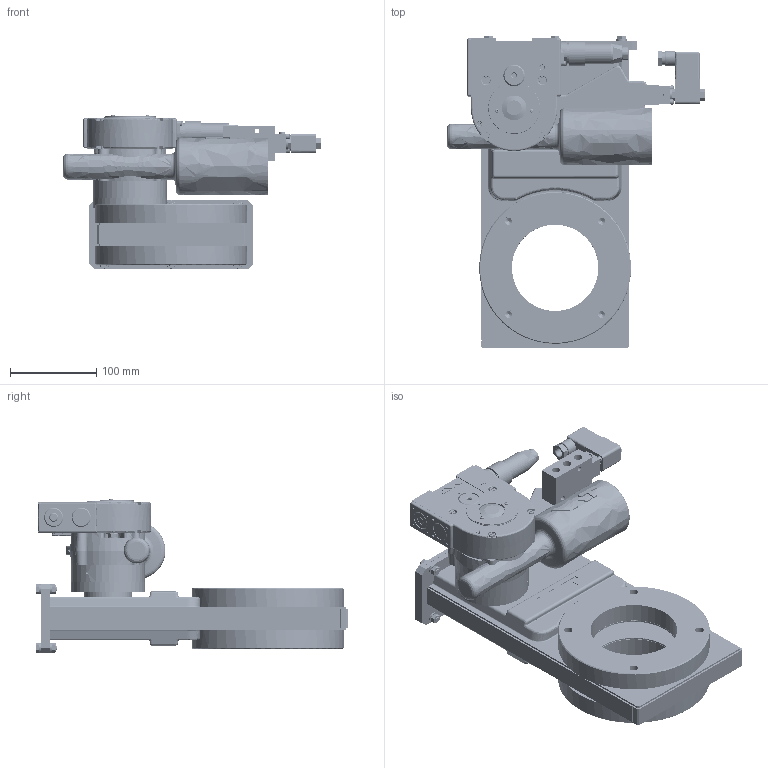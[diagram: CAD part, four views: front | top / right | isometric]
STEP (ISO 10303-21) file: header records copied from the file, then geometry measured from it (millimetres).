
FILE_DESCRIPTION((''),'2;1');
FILE_NAME('O:\MT\MT\Systeme\Cad\Datenexporte\www_vat_ch\236557.stp','2005-07-28T15:06:14',('User'),('SDRC'),'I-DEAS Master Series 9','UNIX','Yes');
FILE_SCHEMA(('CONFIG_CONTROL_DESIGN'));
Length unit declared in the file: millimetre
Assembly tree (91 placements, depth 0):
Bounding box: 298.2 x 361.6 x 178.45 mm (x, y, z)
Volume: 2043808.1 mm3; surface area: 799817.3 mm2
Topology: 116 solids, 116 shells, 3463 faces, 8225 edges, 5250 vertices
Faces by surface type: bspline 3463
Entity records: 89437 total; most frequent: CARTESIAN_POINT 45589, ORIENTED_EDGE 12298, EDGE_CURVE 6149, VERTEX_POINT 3954, EDGE_LOOP 2907, FACE_OUTER_BOUND 2518, ADVANCED_FACE 2518, QUASI_UNIFORM_CURVE 2365
